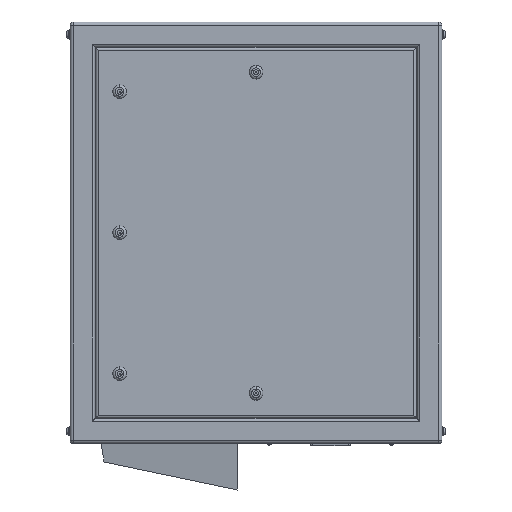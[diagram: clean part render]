
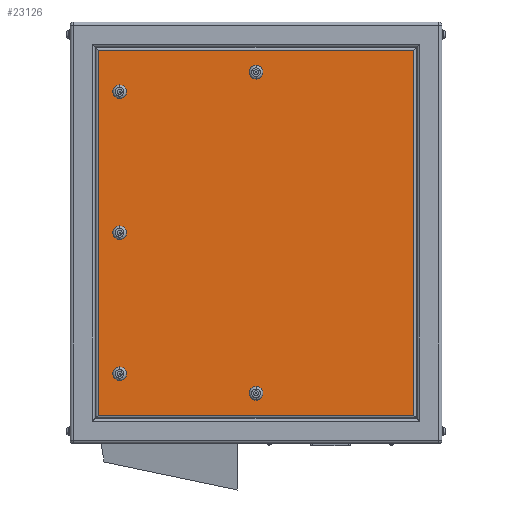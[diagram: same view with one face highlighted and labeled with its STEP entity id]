
A CAD part, left-side view. The second image highlights one B-rep face of the part: STEP entity #23126.
In plain terms, the highlighted planar face has unit normal (-1, 0, 0).
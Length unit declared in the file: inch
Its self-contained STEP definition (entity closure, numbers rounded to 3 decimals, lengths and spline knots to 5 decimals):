
#93 = DIRECTION ( 'NONE',  ( 1., 0., 0. ) ) ;
#325 = DIRECTION ( 'NONE',  ( 0., 0., -1. ) ) ;
#346 = AXIS2_PLACEMENT_3D ( 'NONE', #8186, #6285, #23654 ) ;
#461 = CARTESIAN_POINT ( 'NONE',  ( -9., 0., 13.5 ) ) ;
#519 = VECTOR ( 'NONE', #6575, 39.37008 ) ;
#580 = ORIENTED_EDGE ( 'NONE', *, *, #12658, .T. ) ;
#1258 = DIRECTION ( 'NONE',  ( 1., 0., 0. ) ) ;
#1276 = CARTESIAN_POINT ( 'NONE',  ( -9., -12.74, -14.74 ) ) ;
#1758 = EDGE_LOOP ( 'NONE', ( #10253, #22462 ) ) ;
#2149 = CARTESIAN_POINT ( 'NONE',  ( -9., 11., -11.375 ) ) ;
#2262 = CARTESIAN_POINT ( 'NONE',  ( -9., 11., 11.925 ) ) ;
#2839 = CIRCLE ( 'NONE', #20855, 0.55 ) ;
#2993 = AXIS2_PLACEMENT_3D ( 'NONE', #21071, #93, #12994 ) ;
#3251 = CARTESIAN_POINT ( 'NONE',  ( -9., 12.74, -14.74 ) ) ;
#3338 = CIRCLE ( 'NONE', #13757, 0.55 ) ;
#3366 = DIRECTION ( 'NONE',  ( 0., 0., -1. ) ) ;
#3524 = CARTESIAN_POINT ( 'NONE',  ( -9., 15., 14.74 ) ) ;
#3707 = EDGE_LOOP ( 'NONE', ( #6234, #19943, #16486, #18247 ) ) ;
#3950 = CIRCLE ( 'NONE', #18399, 0.55 ) ;
#4125 = CARTESIAN_POINT ( 'NONE',  ( -9., -12.74, -17. ) ) ;
#4187 = ORIENTED_EDGE ( 'NONE', *, *, #18797, .T. ) ;
#4324 = VECTOR ( 'NONE', #7780, 39.37008 ) ;
#4371 = VERTEX_POINT ( 'NONE', #6149 ) ;
#4570 = EDGE_CURVE ( 'NONE', #21494, #11046, #18274, .T. ) ;
#4748 = DIRECTION ( 'NONE',  ( 0., 0., -1. ) ) ;
#4996 = PLANE ( 'NONE',  #11535 ) ;
#5390 = CARTESIAN_POINT ( 'NONE',  ( -9., 0., 12.95 ) ) ;
#5768 = VECTOR ( 'NONE', #17508, 39.37008 ) ;
#5878 = EDGE_LOOP ( 'NONE', ( #9250, #24351 ) ) ;
#5893 = CIRCLE ( 'NONE', #18715, 0.55 ) ;
#5934 = VERTEX_POINT ( 'NONE', #21313 ) ;
#6149 = CARTESIAN_POINT ( 'NONE',  ( -9., 0., -13.5 ) ) ;
#6234 = ORIENTED_EDGE ( 'NONE', *, *, #18006, .T. ) ;
#6285 = DIRECTION ( 'NONE',  ( 1., 0., 0. ) ) ;
#6291 = CIRCLE ( 'NONE', #23445, 0.55 ) ;
#6316 = ORIENTED_EDGE ( 'NONE', *, *, #22401, .T. ) ;
#6389 = LINE ( 'NONE', #4125, #4324 ) ;
#6575 = DIRECTION ( 'NONE',  ( 0., 0., -1. ) ) ;
#6903 = FACE_BOUND ( 'NONE', #1758, .T. ) ;
#7138 = DIRECTION ( 'NONE',  ( 0., 0., -1. ) ) ;
#7297 = EDGE_CURVE ( 'NONE', #11046, #21494, #14118, .T. ) ;
#7780 = DIRECTION ( 'NONE',  ( 0., 0., 1. ) ) ;
#8186 = CARTESIAN_POINT ( 'NONE',  ( -9., 0., 12.95 ) ) ;
#8385 = EDGE_CURVE ( 'NONE', #4371, #5934, #6291, .T. ) ;
#8462 = VERTEX_POINT ( 'NONE', #1276 ) ;
#8903 = LINE ( 'NONE', #9169, #23556 ) ;
#9037 = FACE_BOUND ( 'NONE', #12522, .T. ) ;
#9169 = CARTESIAN_POINT ( 'NONE',  ( -9., 15., -14.74 ) ) ;
#9250 = ORIENTED_EDGE ( 'NONE', *, *, #20177, .T. ) ;
#9288 = DIRECTION ( 'NONE',  ( 0., 0., -1. ) ) ;
#9415 = DIRECTION ( 'NONE',  ( 1., 0., 0. ) ) ;
#9887 = EDGE_LOOP ( 'NONE', ( #13202, #580 ) ) ;
#9998 = DIRECTION ( 'NONE',  ( 0., 0., -1. ) ) ;
#10253 = ORIENTED_EDGE ( 'NONE', *, *, #4570, .T. ) ;
#10345 = AXIS2_PLACEMENT_3D ( 'NONE', #16935, #9415, #11313 ) ;
#10610 = EDGE_LOOP ( 'NONE', ( #20493, #4187 ) ) ;
#10621 = LINE ( 'NONE', #23698, #519 ) ;
#10733 = CIRCLE ( 'NONE', #346, 0.55 ) ;
#10872 = VERTEX_POINT ( 'NONE', #18912 ) ;
#10875 = CARTESIAN_POINT ( 'NONE',  ( -9., 0., 12.4 ) ) ;
#11046 = VERTEX_POINT ( 'NONE', #20995 ) ;
#11059 = FACE_BOUND ( 'NONE', #9887, .T. ) ;
#11313 = DIRECTION ( 'NONE',  ( 0., 0., 1. ) ) ;
#11412 = CARTESIAN_POINT ( 'NONE',  ( -9., 11., 0. ) ) ;
#11535 = AXIS2_PLACEMENT_3D ( 'NONE', #16301, #1258, #7138 ) ;
#11565 = CIRCLE ( 'NONE', #10345, 0.55 ) ;
#11819 = VERTEX_POINT ( 'NONE', #3251 ) ;
#12041 = VERTEX_POINT ( 'NONE', #12152 ) ;
#12144 = ORIENTED_EDGE ( 'NONE', *, *, #17520, .T. ) ;
#12152 = CARTESIAN_POINT ( 'NONE',  ( -9., -12.74, 14.74 ) ) ;
#12522 = EDGE_LOOP ( 'NONE', ( #12144, #6316 ) ) ;
#12658 = EDGE_CURVE ( 'NONE', #5934, #4371, #11565, .T. ) ;
#12807 = FACE_BOUND ( 'NONE', #10610, .T. ) ;
#12927 = FACE_BOUND ( 'NONE', #5878, .T. ) ;
#12994 = DIRECTION ( 'NONE',  ( 0., 0., -1. ) ) ;
#13028 = CIRCLE ( 'NONE', #2993, 0.55 ) ;
#13202 = ORIENTED_EDGE ( 'NONE', *, *, #8385, .T. ) ;
#13271 = VERTEX_POINT ( 'NONE', #19350 ) ;
#13407 = EDGE_CURVE ( 'NONE', #22850, #11819, #10621, .T. ) ;
#13442 = CARTESIAN_POINT ( 'NONE',  ( -9., 11., -11.925 ) ) ;
#13757 = AXIS2_PLACEMENT_3D ( 'NONE', #5390, #24634, #9288 ) ;
#13882 = LINE ( 'NONE', #3524, #5768 ) ;
#14118 = CIRCLE ( 'NONE', #23620, 0.55 ) ;
#14137 = DIRECTION ( 'NONE',  ( 1., 0., 0. ) ) ;
#14187 = EDGE_CURVE ( 'NONE', #12041, #22850, #13882, .T. ) ;
#14304 = CARTESIAN_POINT ( 'NONE',  ( -9., 11., 11.375 ) ) ;
#14589 = DIRECTION ( 'NONE',  ( 1., 0., 0. ) ) ;
#14618 = CARTESIAN_POINT ( 'NONE',  ( -9., 11., -0.55 ) ) ;
#14958 = EDGE_CURVE ( 'NONE', #13271, #16109, #13028, .T. ) ;
#15631 = CARTESIAN_POINT ( 'NONE',  ( -9., 12.74, 14.74 ) ) ;
#16074 = CARTESIAN_POINT ( 'NONE',  ( -9., 0., -12.95 ) ) ;
#16109 = VERTEX_POINT ( 'NONE', #2262 ) ;
#16301 = CARTESIAN_POINT ( 'NONE',  ( -9., 15., -17. ) ) ;
#16336 = VERTEX_POINT ( 'NONE', #10875 ) ;
#16451 = DIRECTION ( 'NONE',  ( 0., 0., 1. ) ) ;
#16460 = DIRECTION ( 'NONE',  ( 0., 0., -1. ) ) ;
#16486 = ORIENTED_EDGE ( 'NONE', *, *, #14187, .T. ) ;
#16935 = CARTESIAN_POINT ( 'NONE',  ( -9., 0., -12.95 ) ) ;
#17121 = EDGE_CURVE ( 'NONE', #8462, #12041, #6389, .T. ) ;
#17508 = DIRECTION ( 'NONE',  ( 0., 1., 0. ) ) ;
#17520 = EDGE_CURVE ( 'NONE', #22937, #10872, #3950, .T. ) ;
#18006 = EDGE_CURVE ( 'NONE', #11819, #8462, #8903, .T. ) ;
#18247 = ORIENTED_EDGE ( 'NONE', *, *, #13407, .T. ) ;
#18274 = CIRCLE ( 'NONE', #21432, 0.55 ) ;
#18399 = AXIS2_PLACEMENT_3D ( 'NONE', #2149, #23155, #325 ) ;
#18436 = FACE_OUTER_BOUND ( 'NONE', #3707, .T. ) ;
#18715 = AXIS2_PLACEMENT_3D ( 'NONE', #22057, #14589, #16460 ) ;
#18797 = EDGE_CURVE ( 'NONE', #16109, #13271, #2839, .T. ) ;
#18912 = CARTESIAN_POINT ( 'NONE',  ( -9., 11., -10.825 ) ) ;
#19350 = CARTESIAN_POINT ( 'NONE',  ( -9., 11., 10.825 ) ) ;
#19943 = ORIENTED_EDGE ( 'NONE', *, *, #17121, .T. ) ;
#20177 = EDGE_CURVE ( 'NONE', #16336, #21819, #3338, .T. ) ;
#20392 = DIRECTION ( 'NONE',  ( 0., -1., 0. ) ) ;
#20493 = ORIENTED_EDGE ( 'NONE', *, *, #14958, .T. ) ;
#20507 = DIRECTION ( 'NONE',  ( 1., 0., 0. ) ) ;
#20855 = AXIS2_PLACEMENT_3D ( 'NONE', #14304, #21902, #4748 ) ;
#20995 = CARTESIAN_POINT ( 'NONE',  ( -9., 11., 0.55 ) ) ;
#21071 = CARTESIAN_POINT ( 'NONE',  ( -9., 11., 11.375 ) ) ;
#21313 = CARTESIAN_POINT ( 'NONE',  ( -9., 0., -12.4 ) ) ;
#21432 = AXIS2_PLACEMENT_3D ( 'NONE', #11412, #20507, #3366 ) ;
#21494 = VERTEX_POINT ( 'NONE', #14618 ) ;
#21732 = CARTESIAN_POINT ( 'NONE',  ( -9., 11., 0. ) ) ;
#21819 = VERTEX_POINT ( 'NONE', #461 ) ;
#21902 = DIRECTION ( 'NONE',  ( 1., 0., 0. ) ) ;
#22057 = CARTESIAN_POINT ( 'NONE',  ( -9., 11., -11.375 ) ) ;
#22320 = EDGE_CURVE ( 'NONE', #21819, #16336, #10733, .T. ) ;
#22401 = EDGE_CURVE ( 'NONE', #10872, #22937, #5893, .T. ) ;
#22462 = ORIENTED_EDGE ( 'NONE', *, *, #7297, .T. ) ;
#22850 = VERTEX_POINT ( 'NONE', #15631 ) ;
#22937 = VERTEX_POINT ( 'NONE', #13442 ) ;
#23126 = ADVANCED_FACE ( 'NONE', ( #11059, #12927, #9037, #6903, #12807, #18436 ), #4996, .F. ) ;
#23155 = DIRECTION ( 'NONE',  ( 1., 0., 0. ) ) ;
#23445 = AXIS2_PLACEMENT_3D ( 'NONE', #16074, #23645, #16451 ) ;
#23556 = VECTOR ( 'NONE', #20392, 39.37008 ) ;
#23620 = AXIS2_PLACEMENT_3D ( 'NONE', #21732, #14137, #9998 ) ;
#23645 = DIRECTION ( 'NONE',  ( 1., 0., 0. ) ) ;
#23654 = DIRECTION ( 'NONE',  ( 0., 0., -1. ) ) ;
#23698 = CARTESIAN_POINT ( 'NONE',  ( -9., 12.74, -17. ) ) ;
#24351 = ORIENTED_EDGE ( 'NONE', *, *, #22320, .T. ) ;
#24634 = DIRECTION ( 'NONE',  ( 1., 0., 0. ) ) ;
